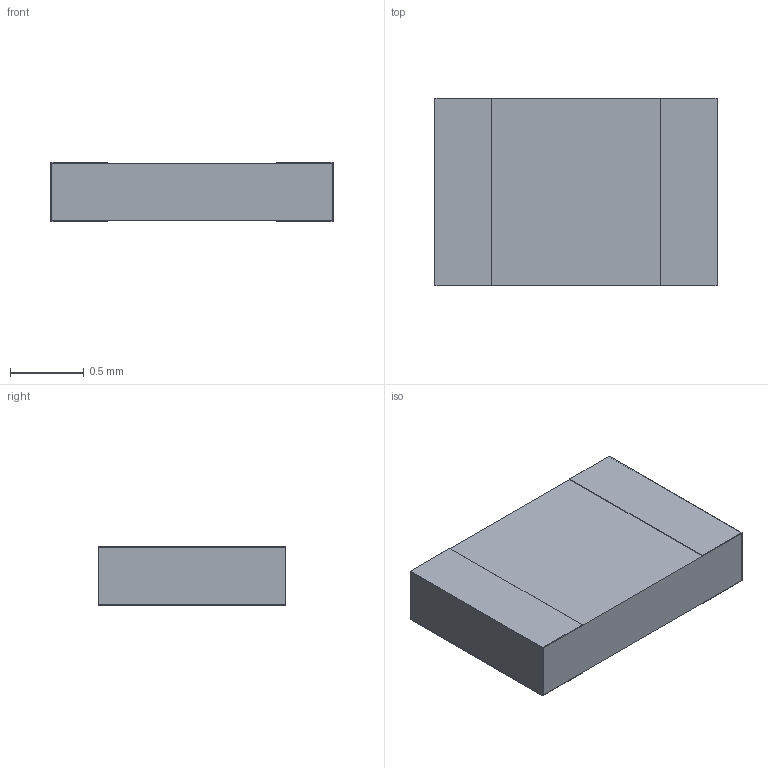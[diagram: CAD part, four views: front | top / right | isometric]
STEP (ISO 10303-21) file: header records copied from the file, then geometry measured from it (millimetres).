
FILE_DESCRIPTION(/* description */ (''),/* implementation_level */ '2;1');
FILE_NAME(/* name */ 'S:\DOCUMENT\AUTOCAD\3D_Modèles\10_3D-pour-VISHAY-COM\P\PVHT0805_G.stp',/* time_stamp */ '2018-01-31T10:15:39+01:00',/* author */ ('dparmentier'),/* organization */ ('unknown'),/* preprocessor_version */ 'ST-DEVELOPER v17',/* originating_system */ 'Autodesk Inventor 2018',/* authorisation */ '');
FILE_SCHEMA (('AUTOMOTIVE_DESIGN { 1 0 10303 214 3 1 1 }'));
Length unit declared in the file: millimetre
Products named in the file (1): PVHT0805_G
Bounding box: 1.91 x 1.27 x 0.4 mm (x, y, z)
Volume: 1 mm3; surface area: 13.2 mm2
Topology: 3 solids, 3 shells, 26 faces, 60 edges, 40 vertices
Faces by surface type: plane 26
Entity records: 775 total; most frequent: CARTESIAN_POINT 127, ORIENTED_EDGE 120, DIRECTION 114, LINE 60, VECTOR 60, EDGE_CURVE 60, VERTEX_POINT 40, AXIS2_PLACEMENT_3D 27
